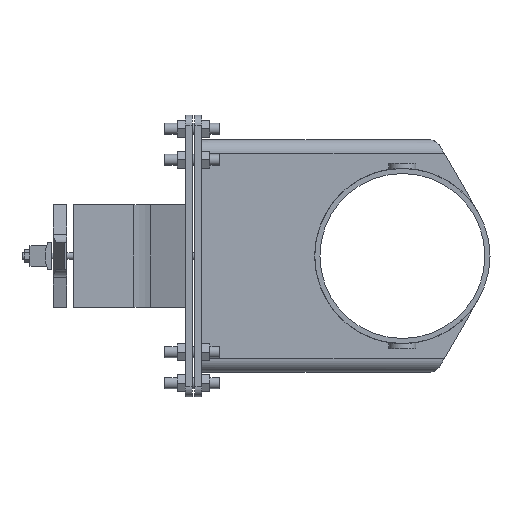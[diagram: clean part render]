
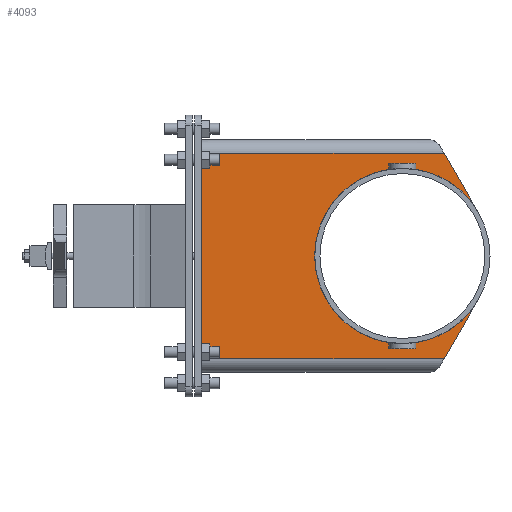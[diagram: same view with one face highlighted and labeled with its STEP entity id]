
A CAD part, left-side view. The second image highlights one B-rep face of the part: STEP entity #4093.
In plain terms, the highlighted planar face has unit normal (-1, 0, 0).
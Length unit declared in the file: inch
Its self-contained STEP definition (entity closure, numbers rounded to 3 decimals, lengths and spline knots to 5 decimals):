
#184=CIRCLE('',#4356,6.375);
#185=CIRCLE('',#4357,6.375);
#186=CIRCLE('',#4358,6.375);
#329=FACE_OUTER_BOUND('',#556,.T.);
#556=EDGE_LOOP('',(#2787,#2788,#2789,#2790,#2791,#2792,#2793,#2794,#2795,
#2796,#2797,#2798,#2799,#2800));
#887=LINE('',#6031,#1313);
#895=LINE('',#6061,#1321);
#905=LINE('',#6088,#1331);
#907=LINE('',#6092,#1333);
#908=LINE('',#6096,#1334);
#909=LINE('',#6098,#1335);
#910=LINE('',#6100,#1336);
#911=LINE('',#6104,#1337);
#912=LINE('',#6106,#1338);
#913=LINE('',#6108,#1339);
#914=LINE('',#6110,#1340);
#1313=VECTOR('',#4862,0.3937);
#1321=VECTOR('',#4892,0.3937);
#1331=VECTOR('',#4914,0.3937);
#1333=VECTOR('',#4918,0.3937);
#1334=VECTOR('',#4921,0.3937);
#1335=VECTOR('',#4922,0.3937);
#1336=VECTOR('',#4923,0.3937);
#1337=VECTOR('',#4926,0.3937);
#1338=VECTOR('',#4927,0.3937);
#1339=VECTOR('',#4928,0.3937);
#1340=VECTOR('',#4931,0.3937);
#1712=VERTEX_POINT('',#6029);
#1713=VERTEX_POINT('',#6030);
#1723=VERTEX_POINT('',#6058);
#1724=VERTEX_POINT('',#6060);
#1735=VERTEX_POINT('',#6087);
#1736=VERTEX_POINT('',#6091);
#1737=VERTEX_POINT('',#6093);
#1738=VERTEX_POINT('',#6095);
#1739=VERTEX_POINT('',#6097);
#1740=VERTEX_POINT('',#6099);
#1741=VERTEX_POINT('',#6101);
#1742=VERTEX_POINT('',#6103);
#1743=VERTEX_POINT('',#6105);
#1744=VERTEX_POINT('',#6107);
#2120=EDGE_CURVE('',#1712,#1713,#887,.T.);
#2135=EDGE_CURVE('',#1723,#1724,#895,.T.);
#2149=EDGE_CURVE('',#1735,#1724,#905,.T.);
#2151=EDGE_CURVE('',#1712,#1736,#907,.T.);
#2152=EDGE_CURVE('',#1737,#1736,#184,.T.);
#2153=EDGE_CURVE('',#1737,#1738,#908,.T.);
#2154=EDGE_CURVE('',#1738,#1739,#909,.T.);
#2155=EDGE_CURVE('',#1739,#1740,#910,.T.);
#2156=EDGE_CURVE('',#1741,#1740,#185,.T.);
#2157=EDGE_CURVE('',#1741,#1742,#911,.T.);
#2158=EDGE_CURVE('',#1742,#1743,#912,.T.);
#2159=EDGE_CURVE('',#1743,#1744,#913,.T.);
#2160=EDGE_CURVE('',#1735,#1744,#186,.T.);
#2161=EDGE_CURVE('',#1723,#1713,#914,.T.);
#2787=ORIENTED_EDGE('',*,*,#2120,.F.);
#2788=ORIENTED_EDGE('',*,*,#2151,.T.);
#2789=ORIENTED_EDGE('',*,*,#2152,.F.);
#2790=ORIENTED_EDGE('',*,*,#2153,.T.);
#2791=ORIENTED_EDGE('',*,*,#2154,.T.);
#2792=ORIENTED_EDGE('',*,*,#2155,.T.);
#2793=ORIENTED_EDGE('',*,*,#2156,.F.);
#2794=ORIENTED_EDGE('',*,*,#2157,.T.);
#2795=ORIENTED_EDGE('',*,*,#2158,.T.);
#2796=ORIENTED_EDGE('',*,*,#2159,.T.);
#2797=ORIENTED_EDGE('',*,*,#2160,.F.);
#2798=ORIENTED_EDGE('',*,*,#2149,.T.);
#2799=ORIENTED_EDGE('',*,*,#2135,.F.);
#2800=ORIENTED_EDGE('',*,*,#2161,.T.);
#3696=PLANE('',#4355);
#4093=ADVANCED_FACE('',(#329),#3696,.F.);
#4355=AXIS2_PLACEMENT_3D('',#6090,#4916,#4917);
#4356=AXIS2_PLACEMENT_3D('',#6094,#4919,#4920);
#4357=AXIS2_PLACEMENT_3D('',#6102,#4924,#4925);
#4358=AXIS2_PLACEMENT_3D('',#6109,#4929,#4930);
#4862=DIRECTION('',(0.,1.,0.));
#4892=DIRECTION('',(0.,-1.,0.));
#4914=DIRECTION('',(0.,0.5,0.866));
#4916=DIRECTION('center_axis',(1.,0.,0.));
#4917=DIRECTION('ref_axis',(0.,0.,-1.));
#4918=DIRECTION('',(0.,-0.5,0.866));
#4919=DIRECTION('center_axis',(-1.,0.,0.));
#4920=DIRECTION('ref_axis',(0.,1.,0.));
#4921=DIRECTION('',(0.,0.,-1.));
#4922=DIRECTION('',(0.,1.,0.));
#4923=DIRECTION('',(0.,0.,1.));
#4924=DIRECTION('center_axis',(-1.,0.,0.));
#4925=DIRECTION('ref_axis',(0.,1.,0.));
#4926=DIRECTION('',(0.,0.,1.));
#4927=DIRECTION('',(0.,-1.,0.));
#4928=DIRECTION('',(0.,0.,-1.));
#4929=DIRECTION('center_axis',(-1.,0.,0.));
#4930=DIRECTION('ref_axis',(0.,1.,0.));
#4931=DIRECTION('',(0.,0.,-1.));
#6029=CARTESIAN_POINT('',(-4.,-3.0513,-7.465));
#6030=CARTESIAN_POINT('',(-4.,14.61,-7.465));
#6031=CARTESIAN_POINT('',(-4.,1.51207,-7.465));
#6058=CARTESIAN_POINT('',(-4.,14.61,7.465));
#6060=CARTESIAN_POINT('',(-4.,-3.0513,7.465));
#6061=CARTESIAN_POINT('',(-4.,10.05404,7.465));
#6087=CARTESIAN_POINT('',(-4.,-5.52091,3.1875));
#6088=CARTESIAN_POINT('',(-4.,-5.52091,3.1875));
#6090=CARTESIAN_POINT('Origin',(-4.,5.49808,0.));
#6091=CARTESIAN_POINT('',(-4.,-5.52091,-3.1875));
#6092=CARTESIAN_POINT('',(-4.,-2.47395,-8.465));
#6093=CARTESIAN_POINT('',(-4.,-0.66678,-6.34003));
#6094=CARTESIAN_POINT('Origin',(-4.,0.,0.));
#6095=CARTESIAN_POINT('',(-4.,-0.66678,-6.731));
#6096=CARTESIAN_POINT('',(-4.,-0.66678,0.));
#6097=CARTESIAN_POINT('',(-4.,0.66678,-6.731));
#6098=CARTESIAN_POINT('',(-4.,2.74904,-6.731));
#6099=CARTESIAN_POINT('',(-4.,0.66678,-6.34003));
#6100=CARTESIAN_POINT('',(-4.,0.66678,0.));
#6101=CARTESIAN_POINT('',(-4.,0.66678,6.34003));
#6102=CARTESIAN_POINT('Origin',(-4.,0.,0.));
#6103=CARTESIAN_POINT('',(-4.,0.66678,6.731));
#6104=CARTESIAN_POINT('',(-4.,0.66678,0.));
#6105=CARTESIAN_POINT('',(-4.,-0.66678,6.731));
#6106=CARTESIAN_POINT('',(-4.,2.74904,6.731));
#6107=CARTESIAN_POINT('',(-4.,-0.66678,6.34003));
#6108=CARTESIAN_POINT('',(-4.,-0.66678,0.));
#6109=CARTESIAN_POINT('Origin',(-4.,0.,0.));
#6110=CARTESIAN_POINT('',(-4.,14.61,8.465));
